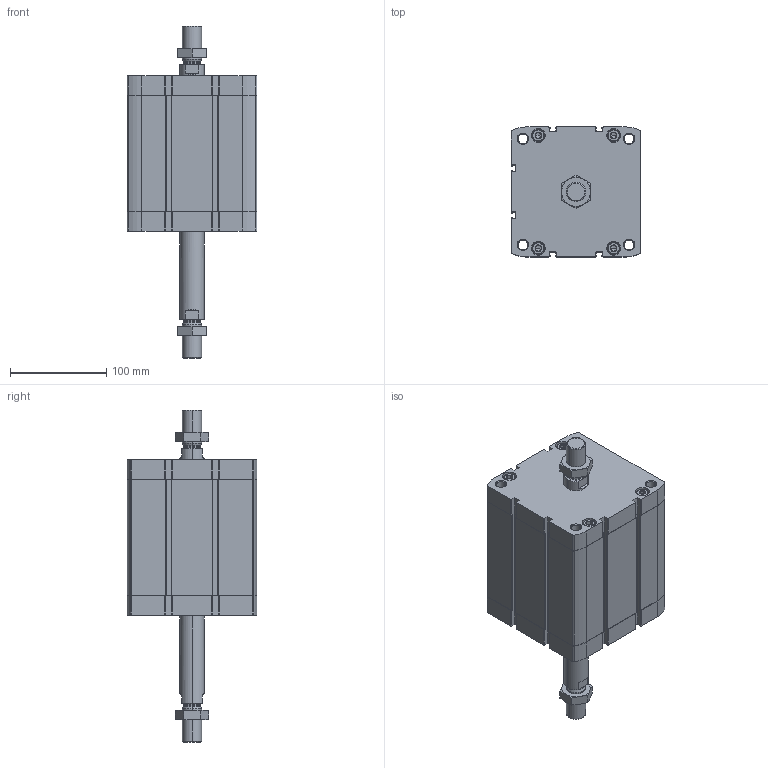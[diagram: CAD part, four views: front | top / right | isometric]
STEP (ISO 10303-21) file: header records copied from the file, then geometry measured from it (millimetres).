
FILE_DESCRIPTION (( 'STEP AP203' ), '1' );
FILE_NAME ('CCN125-80-P.STEP', '2020-06-22T19:16:01', ( '' ), ( '' ), 'SwSTEP 2.0', 'SolidWorks 2019', '' );
FILE_SCHEMA (( 'CONFIG_CONTROL_DESIGN' ));
Length unit declared in the file: millimetre
Products named in the file (1): CCN125-80-P
Bounding box: 134.6 x 134.6 x 344.4 mm (x, y, z)
Volume: 1929918.5 mm3; surface area: 295014.1 mm2
Topology: 4 solids, 4 shells, 592 faces, 1496 edges, 936 vertices
Faces by surface type: plane 288, cylinder 204, cone 92, torus 8
Entity records: 19603 total; most frequent: CARTESIAN_POINT 5061, DIRECTION 3146, ORIENTED_EDGE 2960, EDGE_CURVE 1480, AXIS2_PLACEMENT_3D 1165, VERTEX_POINT 936, VECTOR 816, LINE 816
